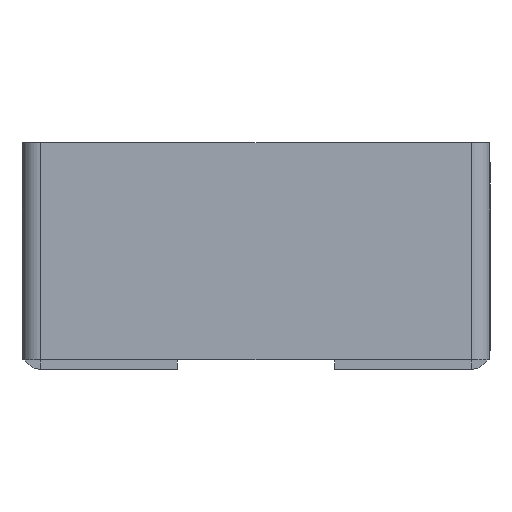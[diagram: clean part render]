
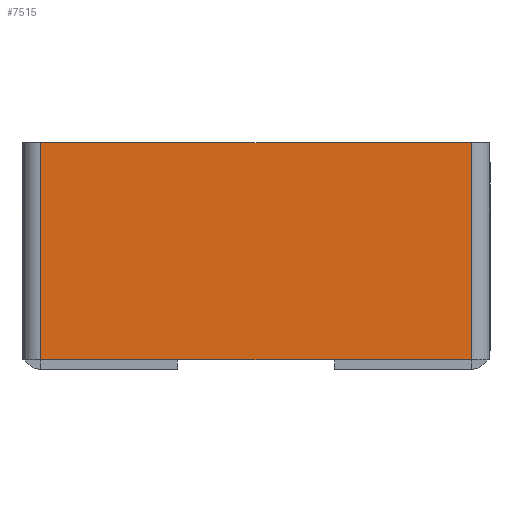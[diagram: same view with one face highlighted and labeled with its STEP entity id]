
A CAD part, front view. The second image highlights one B-rep face of the part: STEP entity #7515.
In plain terms, the highlighted planar face has unit normal (0, -1, 0).
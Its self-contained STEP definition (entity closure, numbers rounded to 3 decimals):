
#723 = VECTOR ( 'NONE', #2805, 1000. ) ;
#946 = CARTESIAN_POINT ( 'NONE',  ( -60., -2.5, 0. ) ) ;
#1119 = CARTESIAN_POINT ( 'NONE',  ( 57.5, -2.5, 0. ) ) ;
#1215 = LINE ( 'NONE', #946, #4319 ) ;
#1685 = ORIENTED_EDGE ( 'NONE', *, *, #9813, .T. ) ;
#2097 = CARTESIAN_POINT ( 'NONE',  ( 0., -2.5, 0. ) ) ;
#2195 = CARTESIAN_POINT ( 'NONE',  ( -57.5, -2.5, -58. ) ) ;
#2233 = EDGE_CURVE ( 'NONE', #6210, #5530, #1215, .T. ) ;
#2400 = DIRECTION ( 'NONE',  ( -1., 0., 0. ) ) ;
#2617 = FACE_OUTER_BOUND ( 'NONE', #8695, .T. ) ;
#2759 = VECTOR ( 'NONE', #5515, 1000. ) ;
#2805 = DIRECTION ( 'NONE',  ( 0., 0., 1. ) ) ;
#2916 = EDGE_CURVE ( 'NONE', #7583, #5530, #3197, .T. ) ;
#3197 = LINE ( 'NONE', #6775, #723 ) ;
#3322 = AXIS2_PLACEMENT_3D ( 'NONE', #2097, #7697, #7833 ) ;
#4319 = VECTOR ( 'NONE', #8956, 1000. ) ;
#4826 = ORIENTED_EDGE ( 'NONE', *, *, #6328, .F. ) ;
#4909 = ORIENTED_EDGE ( 'NONE', *, *, #2916, .T. ) ;
#5515 = DIRECTION ( 'NONE',  ( 0., 0., -1. ) ) ;
#5530 = VERTEX_POINT ( 'NONE', #1119 ) ;
#6180 = CARTESIAN_POINT ( 'NONE',  ( -57.5, -2.5, 0. ) ) ;
#6210 = VERTEX_POINT ( 'NONE', #6180 ) ;
#6328 = EDGE_CURVE ( 'NONE', #7583, #6805, #7977, .T. ) ;
#6775 = CARTESIAN_POINT ( 'NONE',  ( 57.5, -2.5, -58. ) ) ;
#6805 = VERTEX_POINT ( 'NONE', #2195 ) ;
#7061 = CARTESIAN_POINT ( 'NONE',  ( -60., -2.5, -58. ) ) ;
#7515 = ADVANCED_FACE ( 'NONE', ( #2617 ), #7596, .F. ) ;
#7583 = VERTEX_POINT ( 'NONE', #9570 ) ;
#7596 = PLANE ( 'NONE',  #3322 ) ;
#7697 = DIRECTION ( 'NONE',  ( 0., 1., 0. ) ) ;
#7833 = DIRECTION ( 'NONE',  ( 0., 0., 1. ) ) ;
#7977 = LINE ( 'NONE', #7061, #8497 ) ;
#8497 = VECTOR ( 'NONE', #2400, 1000. ) ;
#8510 = LINE ( 'NONE', #9996, #2759 ) ;
#8695 = EDGE_LOOP ( 'NONE', ( #1685, #4826, #4909, #8981 ) ) ;
#8956 = DIRECTION ( 'NONE',  ( 1., 0., 0. ) ) ;
#8981 = ORIENTED_EDGE ( 'NONE', *, *, #2233, .F. ) ;
#9570 = CARTESIAN_POINT ( 'NONE',  ( 57.5, -2.5, -58. ) ) ;
#9813 = EDGE_CURVE ( 'NONE', #6210, #6805, #8510, .T. ) ;
#9996 = CARTESIAN_POINT ( 'NONE',  ( -57.5, -2.5, 0. ) ) ;
